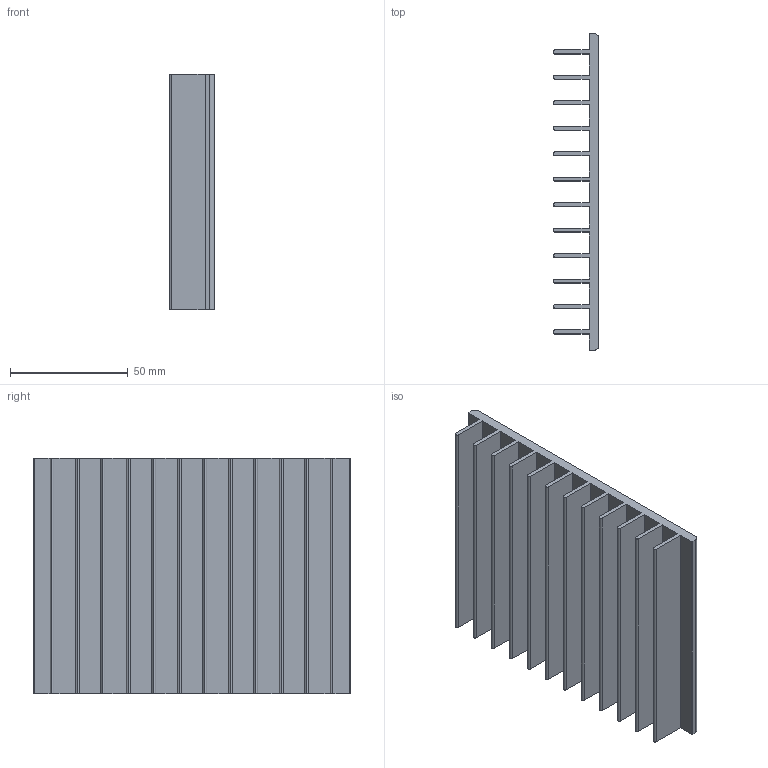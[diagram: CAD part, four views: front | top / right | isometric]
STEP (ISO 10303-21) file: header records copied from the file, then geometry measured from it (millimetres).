
FILE_DESCRIPTION (( 'STEP AP214' ), '1' );
FILE_NAME ('PR378.STEP', '2013-07-08T13:43:11', ( '' ), ( '' ), 'SwSTEP 2.0', 'SolidWorks 2013', '' );
FILE_SCHEMA (( 'AUTOMOTIVE_DESIGN' ));
Length unit declared in the file: millimetre
Products named in the file (1): PR378
Bounding box: 19.2 x 134.3 x 100 mm (x, y, z)
Volume: 82398.9 mm3; surface area: 64766.5 mm2
Topology: 1 solids, 1 shells, 70 faces, 204 edges, 136 vertices
Faces by surface type: plane 42, cylinder 28
Entity records: 2358 total; most frequent: CARTESIAN_POINT 411, ORIENTED_EDGE 408, DIRECTION 402, EDGE_CURVE 204, LINE 148, VECTOR 148, VERTEX_POINT 136, AXIS2_PLACEMENT_3D 127
